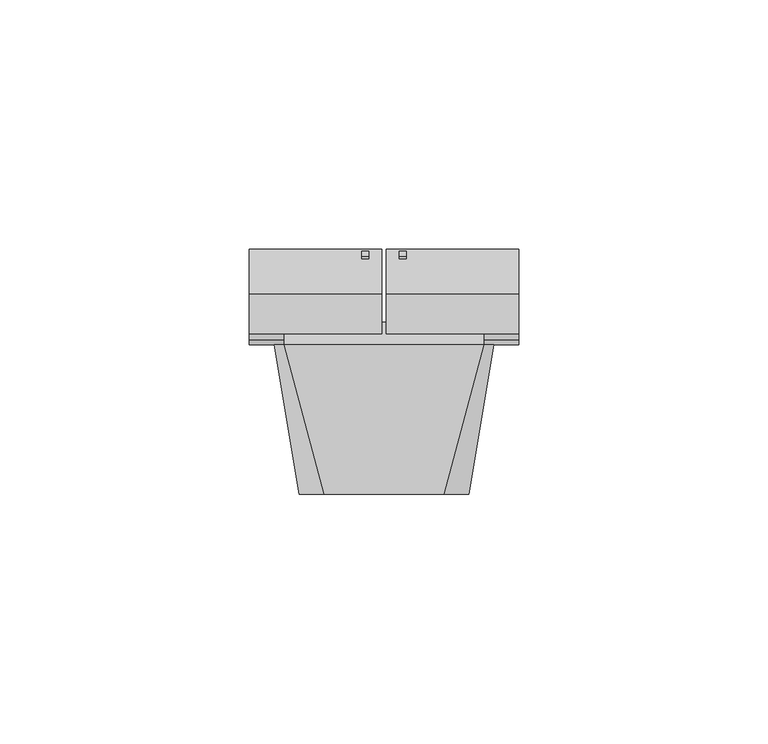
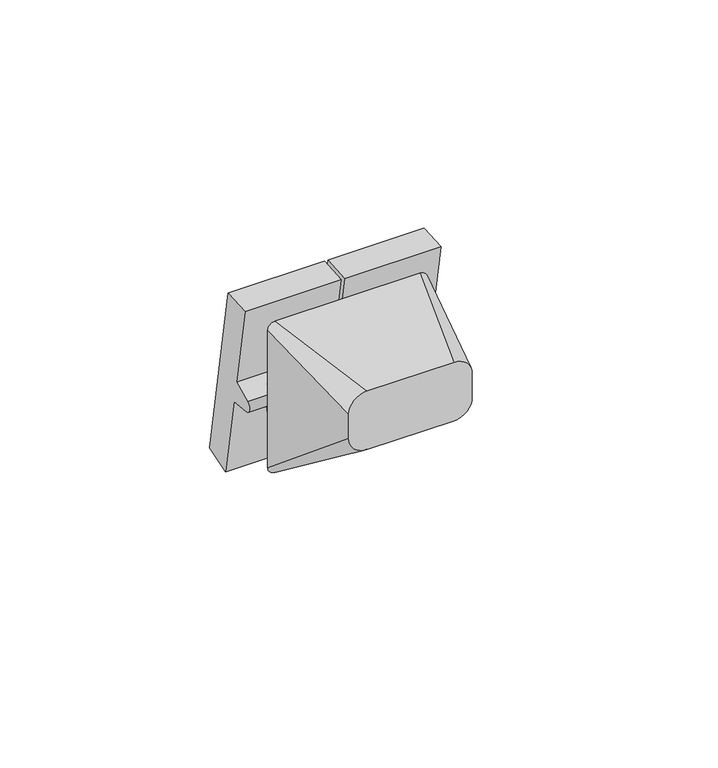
"""IFC4 building model written with IfcOpenShell, lengths in millimetres: proxy geometry, IEK_Brite_Механизм выключателя : В2 И_ВС10-2-1-БрА."""

from ifc_helpers import new_model, si_unit, point, frame, frame_2d, origin, place, context, project, spatial, polyline, circle_curve, trimmed, segment, composite_curve, outline, extrude, source, transform, mapped, element, save
from ifc_brep_helpers import plane_surface, spline_surface, advanced_brep


def electrical_fixtures_70e5a59e(model_context):
    return source(origin(), model_context, "Body", "SolidModel", [
        extrude(outline(polyline([(0.0, -1.473521), (0.0, 0.0), (0.5, 0.0), (0.5, -1.473521), (0.0, -1.473521)])), frame((-3.0132395, 18.7841088, -19.3127712), z_axis=(0.0, -0.17364817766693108, 0.984807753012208), x_axis=(0.0, -0.984807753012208, -0.17364817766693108)), (0.0, 0.0, 1.0), 5.9708694),
        extrude(outline(polyline([(0.0, -1.473521), (0.0, 0.0), (0.5, 0.0), (0.5, -1.473521), (0.0, -1.473521)])), frame((4.4867605, 18.7841088, -19.3127712), z_axis=(0.0, -0.17364817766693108, 0.984807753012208), x_axis=(0.0, -0.984807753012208, -0.17364817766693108)), (0.0, 0.0, 1.0), 5.9708694),
        advanced_brep(
        [(-12.0, -30.0, 17.0), (-17.0, -30.0, 12.0), (-17.0, -30.0, 5.0), (-12.0, -30.0, 0.0), (12.0, -30.0, 0.0), (17.0, -30.0, 5.0), (17.0, -30.0, 12.0), (12.0, -30.0, 17.0), (20.0, 0.0, 22.0), (22.0, 0.0, 20.0), (22.0, 0.0, -20.0), (20.0, 0.0, -22.0), (-20.0, 0.0, -22.0), (-22.0, 0.0, -20.0), (-22.0, 0.0, 20.0), (-20.0, 0.0, 22.0), (20.0, 4.4942733, -3.0892494), (-20.0, 4.4942733, -3.0892494)],
        [
            (0, 1, circle_curve(frame((-12.0, -30.0, 12.0), z_axis=(0.0, -1.0, 0.0), x_axis=(1.0, 0.0, 0.0)), 5.0)),
            (1, 2),
            (2, 3, circle_curve(frame((-12.0, -30.0, 5.0), z_axis=(0.0, -1.0, 0.0), x_axis=(1.0, 0.0, 0.0)), 5.0)),
            (3, 4),
            (4, 5, circle_curve(frame((12.0, -30.0, 5.0), z_axis=(0.0, -1.0, 0.0), x_axis=(1.0, 0.0, 0.0)), 5.0)),
            (5, 6),
            (6, 7, circle_curve(frame((12.0, -30.0, 12.0), z_axis=(0.0, -1.0, 0.0), x_axis=(1.0, 0.0, 0.0)), 5.0)),
            (7, 0),
            (8, 9, circle_curve(frame((20.0, 0.0, 20.0), z_axis=(0.0, 1.0, 0.0), x_axis=(1.0, 0.0, 0.0)), 2.0)),
            (9, 10),
            (10, 11, circle_curve(frame((20.0, 0.0, -20.0), z_axis=(0.0, 1.0, 0.0), x_axis=(1.0, 0.0, 0.0)), 2.0)),
            (11, 8),
            (12, 13, circle_curve(frame((-20.0, 0.0, -20.0), z_axis=(0.0, 1.0, 0.0), x_axis=(1.0, 0.0, 0.0)), 2.0)),
            (13, 14),
            (14, 15, circle_curve(frame((-20.0, 0.0, 20.0), z_axis=(0.0, 1.0, 0.0), x_axis=(1.0, 0.0, 0.0)), 2.0)),
            (15, 12),
            (7, 8),
            (8, 15),
            (15, 0),
            (6, 9),
            (5, 10),
            (4, 11),
            (3, 12),
            (12, 11),
            (2, 13),
            (1, 14),
            (11, 16),
            (16, 8),
            (15, 17),
            (17, 12),
            (17, 16),
        ],
        [
            plane_surface(frame((0.0, -30.0, 8.5), z_axis=(0.0, -1.0, 0.0), x_axis=(-1.0, 0.0, 0.0))),
            plane_surface(frame((0.0, 0.0, 0.0), z_axis=(0.0, 1.0, 0.0), x_axis=(-1.0, 0.0, 0.0))),
            plane_surface(frame((0.0, 0.0, 22.0), z_axis=(0.0, -0.16439898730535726, 0.9863939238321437), x_axis=(-1.0, 0.0, 0.0))),
            spline_surface(2, 1, [[(22.0, 0.0, 20.0), (17.0, -30.0, 12.0)], [(22.0, 0.0, 22.0), (17.0, -30.0, 17.0)], [(20.0, 0.0, 22.0), (12.0, -30.0, 17.0)]], [3, 3], [2, 2], [0.0, 1.0], [0.0, 1.0], weights=[[1.0, 1.0], [0.7071067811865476, 0.7071067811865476], [1.0, 1.0]]),
            plane_surface(frame((22.0, 0.0, 0.0), z_axis=(0.9863939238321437, -0.1643989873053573, 0.0), x_axis=(0.0, 0.0, 1.0))),
            spline_surface(2, 1, [[(20.0, 0.0, -22.0), (12.0, -30.0, 0.0)], [(22.0, 0.0, -22.0), (17.0, -30.0, 0.0)], [(22.0, 0.0, -20.0), (17.0, -30.0, 5.0)]], [3, 3], [2, 2], [0.0, 1.0], [0.0, 1.0], weights=[[1.0, 1.0], [0.7071067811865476, 0.7071067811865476], [1.0, 1.0]]),
            plane_surface(frame((0.0, 0.0, -22.0), z_axis=(0.0, -0.591363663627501, -0.8064049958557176), x_axis=(1.0, 0.0, 0.0))),
            spline_surface(2, 1, [[(-22.0, 0.0, -20.0), (-17.0, -30.0, 5.0)], [(-22.0, 0.0, -22.0), (-17.0, -30.0, 0.0)], [(-20.0, 0.0, -22.0), (-12.0, -30.0, 0.0)]], [3, 3], [2, 2], [0.0, 1.0], [0.0, 1.0], weights=[[1.0, 1.0], [0.7071067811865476, 0.7071067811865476], [1.0, 1.0]]),
            plane_surface(frame((-22.0, 0.0, 0.0), z_axis=(-0.9863939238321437, -0.1643989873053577, 0.0), x_axis=(0.0, 0.0, -1.0))),
            spline_surface(2, 1, [[(-20.0, 0.0, 22.0), (-12.0, -30.0, 17.0)], [(-22.0, 0.0, 22.0), (-17.0, -30.0, 17.0)], [(-22.0, 0.0, 20.0), (-17.0, -30.0, 12.0)]], [3, 3], [2, 2], [0.0, 1.0], [0.0, 1.0], weights=[[1.0, 1.0], [0.7071067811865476, 0.7071067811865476], [1.0, 1.0]]),
            plane_surface(frame((20.0, 0.0, -22.0), z_axis=(1.0, 0.0, 0.0), x_axis=(0.0, 0.23121707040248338, 0.9729021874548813))),
            plane_surface(frame((-20.0, 0.0, -22.0), z_axis=(-1.0, 0.0, 0.0), x_axis=(0.0, -0.23121707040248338, -0.9729021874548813))),
            plane_surface(frame((20.0, 0.0, -22.0), z_axis=(0.0, 0.9729021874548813, -0.23121707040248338), x_axis=(-1.0, 0.0, 0.0))),
            plane_surface(frame((20.0, 4.4942733, -3.0892494), z_axis=(0.0, 0.9843320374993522, 0.17632481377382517), x_axis=(-1.0, 0.0, 0.0))),
        ],
        [
            (0, [[1, 2, 3, 4, 5, 6, 7, 8]]),
            (1, [[9, 10, 11, 12]]),
            (1, [[13, 14, 15, 16]]),
            (2, [[-8, 17, 18, 19]]),
            (3, [[-7, 20, -9, -17]]),
            (4, [[-6, 21, -10, -20]]),
            (5, [[-5, 22, -11, -21]]),
            (6, [[-4, 23, 24, -22]]),
            (7, [[-3, 25, -13, -23]]),
            (8, [[-2, 26, -14, -25]]),
            (9, [[-1, -19, -15, -26]]),
            (10, [[27, 28, -12]]),
            (11, [[29, 30, -16]]),
            (12, [[-27, -24, -30, 31]]),
            (13, [[-28, -31, -29, -18]]),
        ],
    ),
        extrude(outline(composite_curve([segment(polyline([(19.1247035, -24.1237652), (11.4236286, -26.3320129), (7.3756597, -3.3748404), (1.5972872, -2.8692983)]), True, "CONTINUOUS"), segment(trimmed(circle_curve(frame_2d((1.7530049, -1.0894363)), 1.7866608), [point((1.5972872, -2.8692983))], [point((0.9979294, 0.5298284))], False, "CARTESIAN"), True, "CONTINUOUS"), segment(polyline([(0.9979294, 0.5298284), (6.2549179, 2.9812023), (2.206949, 25.9383748), (10.1988574, 26.4972235), (19.1247035, -24.1237652)]), True, "CONTINUOUS")], self_intersect=False)), frame((-27.0, 0.0, 0.0), z_axis=(1.0, 0.0, 0.0), x_axis=(0.0, 1.0, 0.0)), (0.0, 0.0, 1.0), 26.5),
        extrude(outline(composite_curve([segment(polyline([(19.1247035, -24.1237652), (11.4236286, -26.3320129), (7.3756597, -3.3748404), (1.5972872, -2.8692983)]), True, "CONTINUOUS"), segment(trimmed(circle_curve(frame_2d((1.7530049, -1.0894363)), 1.7866608), [point((1.5972872, -2.8692983))], [point((0.9979294, 0.5298284))], False, "CARTESIAN"), True, "CONTINUOUS"), segment(polyline([(0.9979294, 0.5298284), (6.2549179, 2.9812023), (2.206949, 25.9383748), (10.1988574, 26.4972235), (19.1247035, -24.1237652)]), True, "CONTINUOUS")], self_intersect=False)), frame((0.5, 0.0, 0.0), z_axis=(1.0, 0.0, 0.0), x_axis=(0.0, 1.0, 0.0)), (0.0, 0.0, 1.0), 26.5),
    ])


if __name__ == "__main__":
    model = new_model("IFC4")
    model_context = context("Model", 3, world=origin())
    ifc_project = project(units=[si_unit("LENGTHUNIT", "METRE", prefix="MILLI")], contexts=[model_context])
    site = spatial("IfcSite", under=ifc_project)
    building = spatial("IfcBuilding", under=site)
    placement = place(None, origin())
    electrical_fixtures_shape = electrical_fixtures_70e5a59e(model_context)
    element("IfcBuildingElementProxy", 1, Name="IEK_Brite_Механизм выключателя : В2 И_ВС10-2-1-БрА", ObjectType="IEK_Brite_Механизм выключателя : В2 И_ВС10-2-1-БрА", at=placement, inside=building, context=model_context, shape_type="MappedRepresentation", body=[
        mapped(electrical_fixtures_shape, transform((0.0, 0.0, 0.0), x_axis=(1.0, 0.0, 0.0), y_axis=(0.0, 1.0, 0.0), z_axis=(0.0, 0.0, 1.0))),
    ])
    save(model, "model.ifc")
